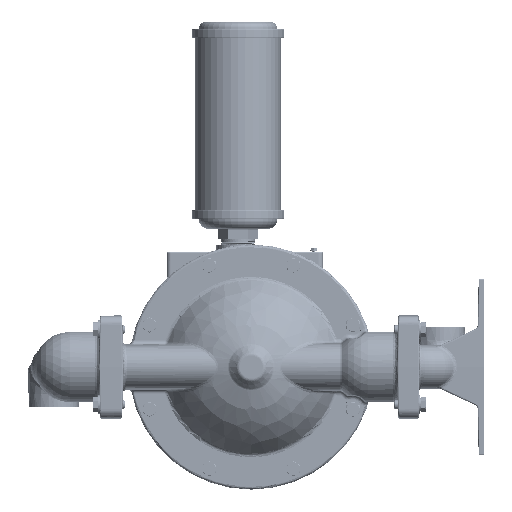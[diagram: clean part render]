
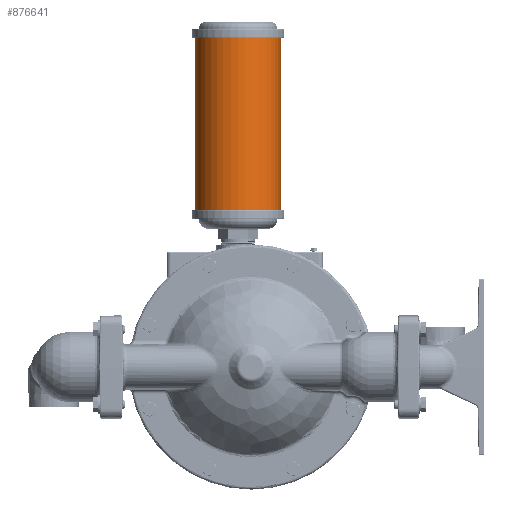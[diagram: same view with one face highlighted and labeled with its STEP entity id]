
A CAD part, left-side view. The second image highlights one B-rep face of the part: STEP entity #876641.
In plain terms, the highlighted cylindrical face has radius 61.722 mm (diameter 123.444 mm), a partial arc.
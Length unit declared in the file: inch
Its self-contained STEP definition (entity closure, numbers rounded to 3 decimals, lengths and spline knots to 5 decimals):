
#714942=DIRECTION('',(0.,0.,1.));
#714943=VECTOR('',#714942,9.78);
#714944=CARTESIAN_POINT('',(5.9155,3.18,8.905));
#714945=LINE('',#714944,#714943);
#714946=DIRECTION('',(0.,0.,1.));
#714947=VECTOR('',#714946,9.78);
#714948=CARTESIAN_POINT('',(5.9155,-1.68,8.905));
#714949=LINE('',#714948,#714947);
#714950=CARTESIAN_POINT('',(5.9155,0.75,8.905));
#714951=DIRECTION('',(0.,0.,1.));
#714952=DIRECTION('',(0.,1.,0.));
#714953=AXIS2_PLACEMENT_3D('',#714950,#714951,#714952);
#714975=CARTESIAN_POINT('',(5.9155,0.75,18.685));
#714976=DIRECTION('',(0.,0.,1.));
#714977=DIRECTION('',(0.,1.,0.));
#714978=AXIS2_PLACEMENT_3D('',#714975,#714976,#714977);
#853809=CARTESIAN_POINT('',(5.9155,3.18,8.905));
#853810=CARTESIAN_POINT('',(5.9155,3.18,18.685));
#853811=VERTEX_POINT('',#853809);
#853812=VERTEX_POINT('',#853810);
#853813=CARTESIAN_POINT('',(5.9155,-1.68,8.905));
#853814=CARTESIAN_POINT('',(5.9155,-1.68,18.685));
#853815=VERTEX_POINT('',#853813);
#853816=VERTEX_POINT('',#853814);
#876627=CARTESIAN_POINT('',(5.9155,0.75,20.1725));
#876628=DIRECTION('',(0.,0.,-1.));
#876629=DIRECTION('',(0.,-1.,0.));
#876630=AXIS2_PLACEMENT_3D('',#876627,#876628,#876629);
#876631=CYLINDRICAL_SURFACE('',#876630,2.43);
#876633=ORIENTED_EDGE('',*,*,#876632,.T.);
#876635=ORIENTED_EDGE('',*,*,#876634,.T.);
#876637=ORIENTED_EDGE('',*,*,#876636,.F.);
#876638=ORIENTED_EDGE('',*,*,#876608,.F.);
#876639=EDGE_LOOP('',(#876633,#876635,#876637,#876638));
#876640=FACE_OUTER_BOUND('',#876639,.F.);
#714954=CIRCLE('',#714953,2.43);
#714979=CIRCLE('',#714978,2.43);
#876608=EDGE_CURVE('',#853811,#853815,#714954,.T.);
#876632=EDGE_CURVE('',#853811,#853812,#714945,.T.);
#876634=EDGE_CURVE('',#853812,#853816,#714979,.T.);
#876636=EDGE_CURVE('',#853815,#853816,#714949,.T.);
#876641=ADVANCED_FACE('',(#876640),#876631,.T.);
